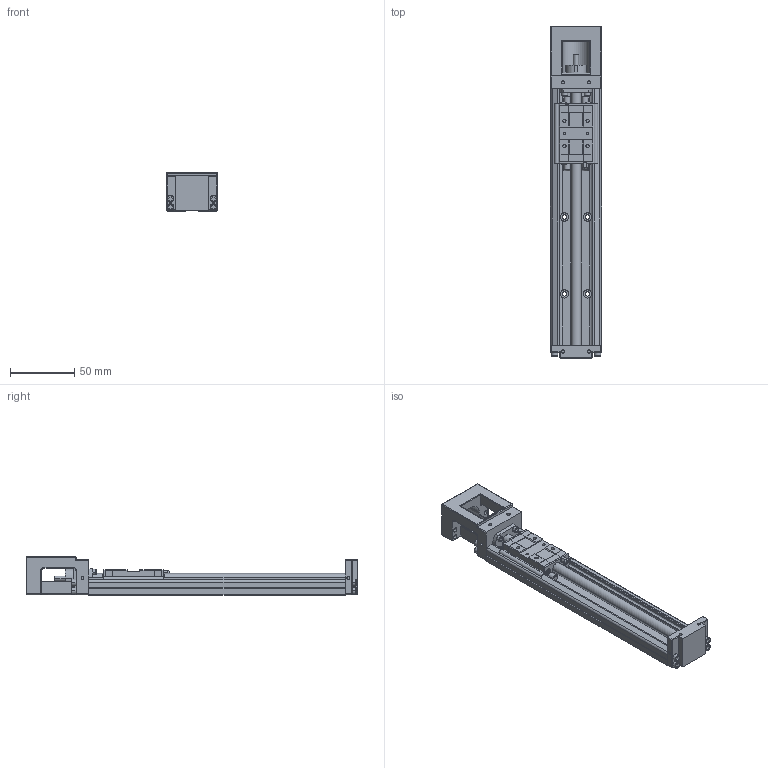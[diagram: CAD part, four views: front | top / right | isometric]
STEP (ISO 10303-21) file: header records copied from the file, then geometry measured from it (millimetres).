
FILE_DESCRIPTION(('no description'),'unknown implementation level');
FILE_NAME('KK4001P200A1F0000_FILE_3.stp',' ',('HIWIN GmbH'),('CADClick - KiM GmbH - www.kimweb.de'),'unknown preprocess','ACIS','unknown authorization');
FILE_SCHEMA(('automotive_design'));
Length unit declared in the file: millimetre
Products named in the file (2): KK40_FILE; KK4001P200A1F0000_FILE
Bounding box: 40 x 259 x 30 mm (x, y, z)
Volume: 122130.5 mm3; surface area: 54011.8 mm2
Topology: 2 solids, 14 shells, 789 faces, 1997 edges, 1276 vertices
Faces by surface type: plane 463, cylinder 274, torus 46, sphere 6
Entity records: 47116 total; most frequent: CARTESIAN_POINT 4832, DIRECTION 4212, STYLED_ITEM 4060, PRESENTATION_STYLE_ASSIGNMENT 4060, COLOUR_RGB 4060, ORIENTED_EDGE 3986, EDGE_CURVE 1993, CURVE_STYLE 1993
